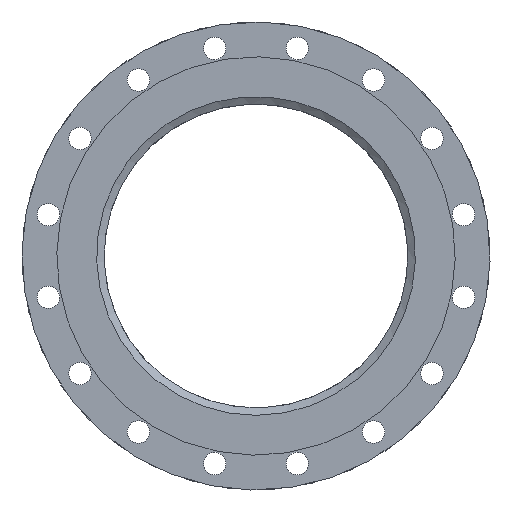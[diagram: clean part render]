
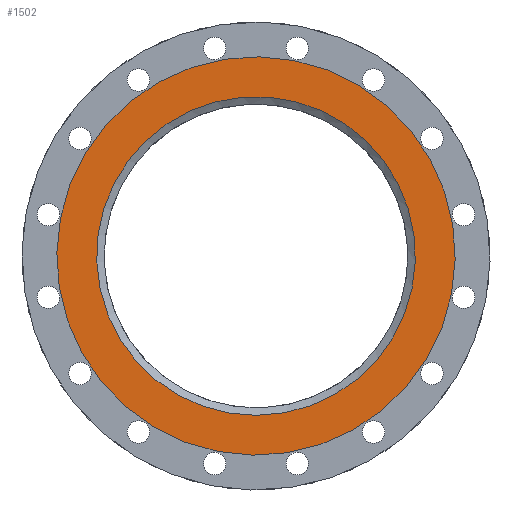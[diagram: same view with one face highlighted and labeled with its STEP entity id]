
A CAD part, front view. The second image highlights one B-rep face of the part: STEP entity #1502.
In plain terms, the highlighted planar face has unit normal (0, -1, 0).
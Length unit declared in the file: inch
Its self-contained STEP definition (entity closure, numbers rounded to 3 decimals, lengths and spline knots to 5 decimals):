
#49=PLANE('',#1687);
#184=FACE_BOUND('',#503,.T.);
#289=FACE_OUTER_BOUND('',#502,.T.);
#502=EDGE_LOOP('',(#1187));
#503=EDGE_LOOP('',(#1188));
#700=CIRCLE('',#1684,10.);
#702=CIRCLE('',#1688,8.);
#837=VERTEX_POINT('',#2489);
#839=VERTEX_POINT('',#2495);
#974=EDGE_CURVE('',#837,#837,#700,.T.);
#976=EDGE_CURVE('',#839,#839,#702,.T.);
#1187=ORIENTED_EDGE('',*,*,#974,.T.);
#1188=ORIENTED_EDGE('',*,*,#976,.T.);
#1502=ADVANCED_FACE('',(#289,#184),#49,.T.);
#1684=AXIS2_PLACEMENT_3D('',#2490,#2047,#2048);
#1687=AXIS2_PLACEMENT_3D('',#2494,#2053,#2054);
#1688=AXIS2_PLACEMENT_3D('',#2496,#2055,#2056);
#2047=DIRECTION('center_axis',(0.,-1.,0.));
#2048=DIRECTION('ref_axis',(-0.857,0.,0.515));
#2053=DIRECTION('center_axis',(0.,-1.,0.));
#2054=DIRECTION('ref_axis',(-0.857,0.,0.515));
#2055=DIRECTION('center_axis',(0.,1.,0.));
#2056=DIRECTION('ref_axis',(0.133,0.,0.991));
#2489=CARTESIAN_POINT('',(8.57434,0.,-5.14593));
#2490=CARTESIAN_POINT('Origin',(0.,0.,
0.));
#2494=CARTESIAN_POINT('Origin',(0.,0.,
0.));
#2495=CARTESIAN_POINT('',(6.85947,0.,-4.11675));
#2496=CARTESIAN_POINT('Origin',(0.,0.,
0.));
